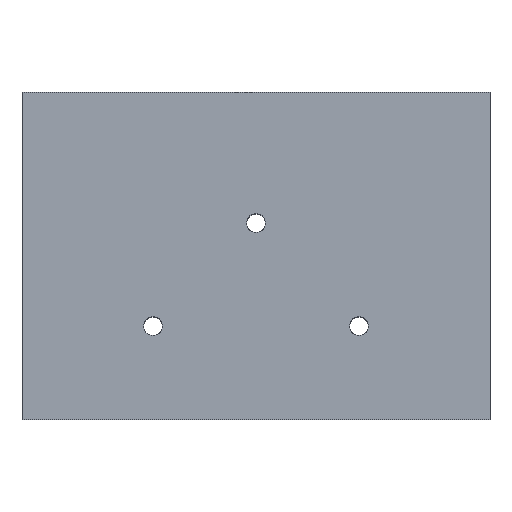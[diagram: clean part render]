
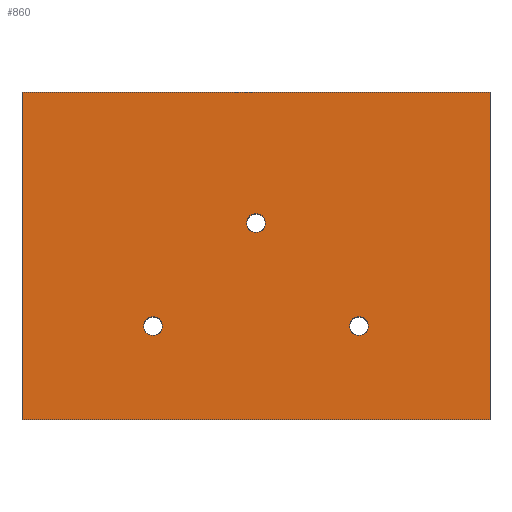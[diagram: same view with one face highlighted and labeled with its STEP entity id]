
A CAD part, top view. The second image highlights one B-rep face of the part: STEP entity #860.
In plain terms, the highlighted planar face has unit normal (0, 0, 1).
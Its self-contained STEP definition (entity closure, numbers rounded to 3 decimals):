
#13 = LINE ( 'NONE', #935, #1147 ) ;
#16 = LINE ( 'NONE', #1420, #798 ) ;
#18 = VERTEX_POINT ( 'NONE', #281 ) ;
#34 = VERTEX_POINT ( 'NONE', #669 ) ;
#46 = EDGE_CURVE ( 'NONE', #1513, #999, #356, .T. ) ;
#57 = VERTEX_POINT ( 'NONE', #658 ) ;
#73 = DIRECTION ( 'NONE',  ( 1., 0., 0. ) ) ;
#100 = PLANE ( 'NONE',  #1176 ) ;
#111 = AXIS2_PLACEMENT_3D ( 'NONE', #1330, #1595, #403 ) ;
#199 = DIRECTION ( 'NONE',  ( 0., 1., 0. ) ) ;
#209 = CARTESIAN_POINT ( 'NONE',  ( -25., 17.5, 10. ) ) ;
#222 = ORIENTED_EDGE ( 'NONE', *, *, #448, .F. ) ;
#253 = DIRECTION ( 'NONE',  ( 0., 0., 1. ) ) ;
#281 = CARTESIAN_POINT ( 'NONE',  ( 25., 17.5, 10. ) ) ;
#299 = CIRCLE ( 'NONE', #1427, 1. ) ;
#312 = LINE ( 'NONE', #1245, #1037 ) ;
#334 = VERTEX_POINT ( 'NONE', #209 ) ;
#347 = VECTOR ( 'NONE', #1023, 1000. ) ;
#356 = CIRCLE ( 'NONE', #111, 1. ) ;
#367 = VERTEX_POINT ( 'NONE', #996 ) ;
#374 = AXIS2_PLACEMENT_3D ( 'NONE', #716, #1610, #963 ) ;
#378 = DIRECTION ( 'NONE',  ( 1., 0., 0. ) ) ;
#392 = CARTESIAN_POINT ( 'NONE',  ( 10., -7.5, 10. ) ) ;
#403 = DIRECTION ( 'NONE',  ( 1., 0., 0. ) ) ;
#404 = CIRCLE ( 'NONE', #1567, 1. ) ;
#448 = EDGE_CURVE ( 'NONE', #712, #367, #404, .T. ) ;
#467 = AXIS2_PLACEMENT_3D ( 'NONE', #504, #1157, #1691 ) ;
#498 = CARTESIAN_POINT ( 'NONE',  ( 11., -7.5, 10. ) ) ;
#504 = CARTESIAN_POINT ( 'NONE',  ( 0., 3.5, 10. ) ) ;
#515 = AXIS2_PLACEMENT_3D ( 'NONE', #1222, #1108, #568 ) ;
#566 = ORIENTED_EDGE ( 'NONE', *, *, #730, .T. ) ;
#568 = DIRECTION ( 'NONE',  ( 1., 0., 0. ) ) ;
#575 = CIRCLE ( 'NONE', #515, 1. ) ;
#601 = EDGE_CURVE ( 'NONE', #367, #712, #299, .T. ) ;
#643 = ORIENTED_EDGE ( 'NONE', *, *, #662, .T. ) ;
#650 = CARTESIAN_POINT ( 'NONE',  ( -1., 3.5, 10. ) ) ;
#651 = ORIENTED_EDGE ( 'NONE', *, *, #1398, .T. ) ;
#658 = CARTESIAN_POINT ( 'NONE',  ( -25., -17.5, 10. ) ) ;
#662 = EDGE_CURVE ( 'NONE', #18, #334, #13, .T. ) ;
#669 = CARTESIAN_POINT ( 'NONE',  ( -12., -7.5, 10. ) ) ;
#712 = VERTEX_POINT ( 'NONE', #392 ) ;
#716 = CARTESIAN_POINT ( 'NONE',  ( -11., -7.5, 10. ) ) ;
#730 = EDGE_CURVE ( 'NONE', #1709, #18, #312, .T. ) ;
#774 = EDGE_LOOP ( 'NONE', ( #932, #651, #566, #643 ) ) ;
#798 = VECTOR ( 'NONE', #378, 1000. ) ;
#817 = EDGE_CURVE ( 'NONE', #1218, #34, #1627, .T. ) ;
#856 = EDGE_CURVE ( 'NONE', #34, #1218, #575, .T. ) ;
#860 = ADVANCED_FACE ( 'NONE', ( #1133, #876, #1519, #1115 ), #100, .T. ) ;
#868 = LINE ( 'NONE', #1396, #347 ) ;
#876 = FACE_BOUND ( 'NONE', #1094, .T. ) ;
#911 = DIRECTION ( 'NONE',  ( 1., 0., 0. ) ) ;
#928 = EDGE_CURVE ( 'NONE', #334, #57, #868, .T. ) ;
#932 = ORIENTED_EDGE ( 'NONE', *, *, #928, .T. ) ;
#935 = CARTESIAN_POINT ( 'NONE',  ( -25., 17.5, 10. ) ) ;
#963 = DIRECTION ( 'NONE',  ( 1., 0., 0. ) ) ;
#975 = ORIENTED_EDGE ( 'NONE', *, *, #1523, .F. ) ;
#996 = CARTESIAN_POINT ( 'NONE',  ( 12., -7.5, 10. ) ) ;
#999 = VERTEX_POINT ( 'NONE', #1650 ) ;
#1000 = CARTESIAN_POINT ( 'NONE',  ( 25., -17.5, 10. ) ) ;
#1023 = DIRECTION ( 'NONE',  ( 0., -1., 0. ) ) ;
#1037 = VECTOR ( 'NONE', #199, 1000. ) ;
#1051 = DIRECTION ( 'NONE',  ( 1., 0., 0. ) ) ;
#1062 = ORIENTED_EDGE ( 'NONE', *, *, #46, .F. ) ;
#1064 = CARTESIAN_POINT ( 'NONE',  ( 11., -7.5, 10. ) ) ;
#1072 = EDGE_LOOP ( 'NONE', ( #1665, #1373 ) ) ;
#1094 = EDGE_LOOP ( 'NONE', ( #975, #1062 ) ) ;
#1108 = DIRECTION ( 'NONE',  ( 0., 0., 1. ) ) ;
#1115 = FACE_OUTER_BOUND ( 'NONE', #774, .T. ) ;
#1133 = FACE_BOUND ( 'NONE', #1072, .T. ) ;
#1147 = VECTOR ( 'NONE', #1335, 1000. ) ;
#1157 = DIRECTION ( 'NONE',  ( 0., 0., 1. ) ) ;
#1176 = AXIS2_PLACEMENT_3D ( 'NONE', #1546, #1685, #73 ) ;
#1218 = VERTEX_POINT ( 'NONE', #1485 ) ;
#1222 = CARTESIAN_POINT ( 'NONE',  ( -11., -7.5, 10. ) ) ;
#1245 = CARTESIAN_POINT ( 'NONE',  ( 25., 17.5, 10. ) ) ;
#1319 = DIRECTION ( 'NONE',  ( 0., 0., 1. ) ) ;
#1330 = CARTESIAN_POINT ( 'NONE',  ( 0., 3.5, 10. ) ) ;
#1335 = DIRECTION ( 'NONE',  ( -1., 0., 0. ) ) ;
#1373 = ORIENTED_EDGE ( 'NONE', *, *, #856, .F. ) ;
#1376 = EDGE_LOOP ( 'NONE', ( #1392, #222 ) ) ;
#1392 = ORIENTED_EDGE ( 'NONE', *, *, #601, .F. ) ;
#1396 = CARTESIAN_POINT ( 'NONE',  ( -25., 17.5, 10. ) ) ;
#1398 = EDGE_CURVE ( 'NONE', #57, #1709, #16, .T. ) ;
#1420 = CARTESIAN_POINT ( 'NONE',  ( -25., -17.5, 10. ) ) ;
#1427 = AXIS2_PLACEMENT_3D ( 'NONE', #1064, #1319, #1051 ) ;
#1485 = CARTESIAN_POINT ( 'NONE',  ( -10., -7.5, 10. ) ) ;
#1513 = VERTEX_POINT ( 'NONE', #650 ) ;
#1519 = FACE_BOUND ( 'NONE', #1376, .T. ) ;
#1523 = EDGE_CURVE ( 'NONE', #999, #1513, #1575, .T. ) ;
#1546 = CARTESIAN_POINT ( 'NONE',  ( 0., 0., 10. ) ) ;
#1567 = AXIS2_PLACEMENT_3D ( 'NONE', #498, #253, #911 ) ;
#1575 = CIRCLE ( 'NONE', #467, 1. ) ;
#1595 = DIRECTION ( 'NONE',  ( 0., 0., 1. ) ) ;
#1610 = DIRECTION ( 'NONE',  ( 0., 0., 1. ) ) ;
#1627 = CIRCLE ( 'NONE', #374, 1. ) ;
#1650 = CARTESIAN_POINT ( 'NONE',  ( 1., 3.5, 10. ) ) ;
#1665 = ORIENTED_EDGE ( 'NONE', *, *, #817, .F. ) ;
#1685 = DIRECTION ( 'NONE',  ( 0., 0., 1. ) ) ;
#1691 = DIRECTION ( 'NONE',  ( 1., 0., 0. ) ) ;
#1709 = VERTEX_POINT ( 'NONE', #1000 ) ;
